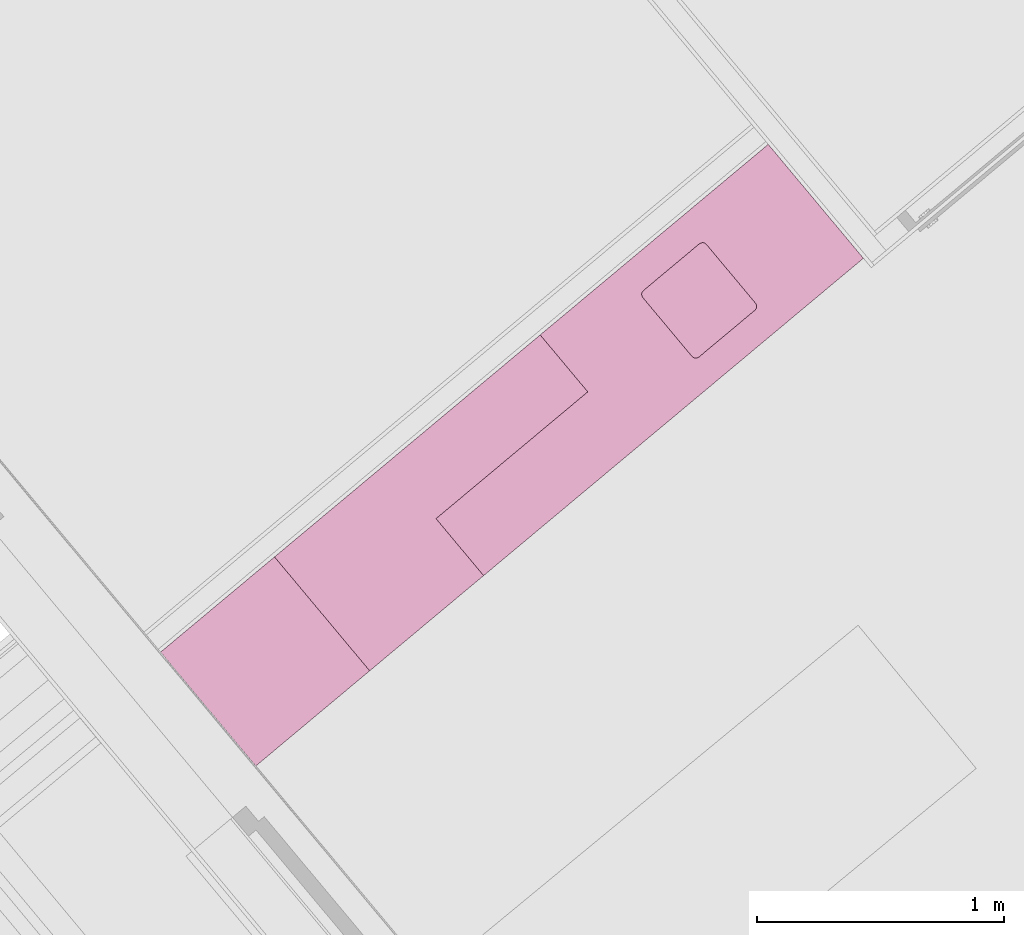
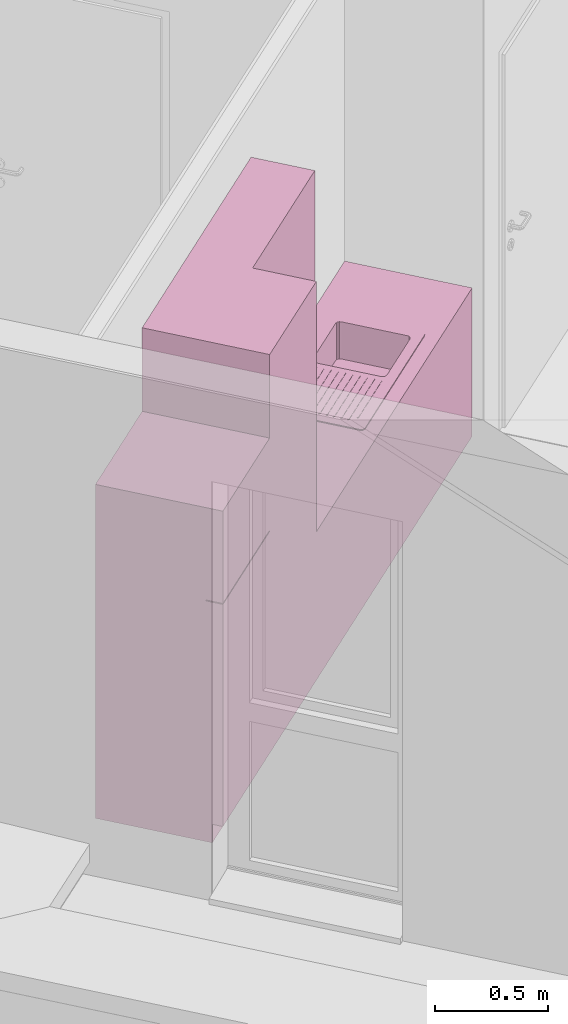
# One storey, part 59 of 61: 1 furniture element.
"""IFC4 building model written with IfcOpenShell, lengths in metres."""

from ifc_helpers import new_model, entity, si_unit, converted_unit, derived_unit, direction, frame, origin_with_axes, place, context, subcontext, project, spatial, polygons, source, transform, mapped, type_object, element, save


model = new_model("IFC4")

# Units and contexts
model_context = context("Model", 3, precision=1e-05, world=origin_with_axes(), true_north=direction((0.0, 1.0)))
body_context = subcontext(model_context, "Body", "Model", "MODEL_VIEW")
ifc_project = project(units=[si_unit("LENGTHUNIT", "METRE"), si_unit("AREAUNIT", "SQUARE_METRE"), si_unit("VOLUMEUNIT", "CUBIC_METRE"), converted_unit("PLANEANGLEUNIT", "DEGREE", entity("IfcPlaneAngleMeasure", 0.0174532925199), si_unit("PLANEANGLEUNIT", "RADIAN"), dimensions=[0, 0, 0, 0, 0, 0, 0]), converted_unit("TIMEUNIT", "Year", entity("IfcTimeMeasure", 31556926.0), si_unit("TIMEUNIT", "SECOND"), dimensions=[0, 0, 1, 0, 0, 0, 0]), si_unit("MASSUNIT", "GRAM", prefix="KILO"), si_unit("THERMODYNAMICTEMPERATUREUNIT", "DEGREE_CELSIUS"), si_unit("LUMINOUSINTENSITYUNIT", "LUMEN"), si_unit("ENERGYUNIT", "JOULE", prefix="MEGA"), derived_unit("THERMALCONDUCTANCEUNIT", [(si_unit("POWERUNIT", "WATT"), 1), (si_unit("LENGTHUNIT", "METRE"), -1), (si_unit("THERMODYNAMICTEMPERATUREUNIT", "KELVIN"), -1)]), derived_unit("SPECIFICHEATCAPACITYUNIT", [(si_unit("ENERGYUNIT", "JOULE"), 1), (si_unit("MASSUNIT", "GRAM", prefix="KILO"), -1), (si_unit("THERMODYNAMICTEMPERATUREUNIT", "KELVIN"), -1)]), derived_unit("MASSDENSITYUNIT", [(si_unit("MASSUNIT", "GRAM", prefix="KILO"), 1), (si_unit("VOLUMEUNIT", "CUBIC_METRE"), -1)])], contexts=[model_context])

# Site, building, storey, space
site_placement = place(None, frame((-0.00153261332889, -0.00661245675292, 0.0), z_axis=(0.0, 0.0, 1.0), x_axis=(1.0, 0.0, 0.0)))
site = spatial("IfcSite", under=ifc_project, at=site_placement, Name="Gelände", CompositionType="ELEMENT")
building_placement = place(site_placement, origin_with_axes())
building = spatial("IfcBuilding", under=site, at=building_placement, Name="Gebäude", CompositionType="ELEMENT")
storey_placement = place(building_placement, frame((0.0, 0.0, 5.7), z_axis=(0.0, 0.0, 1.0), x_axis=(1.0, 0.0, 0.0)))
storey = spatial("IfcBuildingStorey", under=building, at=storey_placement, Name="DG1", CompositionType="ELEMENT", Elevation=5.7)
space_placement = place(storey_placement, frame((-1.20514111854, 10.7241437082, 0.22), z_axis=(0.0, 0.0, 1.0), x_axis=(0.766948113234, 0.641709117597, 0.0)))
space = spatial("IfcSpace", under=storey, at=space_placement, CompositionType="ELEMENT", PredefinedType="NOTDEFINED")

# Furniture
furniture_type = type_object("IfcFurnitureType", Name="Konzeptküche 26", AssemblyPlace="NOTDEFINED", PredefinedType="NOTDEFINED")
shared_shape = source(origin_with_axes(), body_context, "Body", "Tessellation", [
    polygons([(-0.968323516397, 0.0, 0.0), (-0.968323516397, 0.0, 0.1), (-2.96857705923, 0.0, 0.1), (-2.96857705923, 0.0, 0.0), (-0.968323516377, 0.55, 0.0), (-0.968323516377, 0.55, 0.1), (-2.96857705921, 0.550000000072, 0.1), (-2.96857705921, 0.550000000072, 0.0)], [[[1, 2, 3, 4]], [[5, 6, 2, 1]], [[2, 6, 7, 3]], [[4, 3, 7, 8]], [[1, 4, 8, 5]], [[8, 7, 6, 5]]], closed=True),
    polygons([(-0.968323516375, 0.6, 0.85), (-0.968323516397, 0.0, 0.85), (-2.96857705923, 0.0, 0.85), (-2.96857705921, 0.600000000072, 0.85), (-1.79253770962, 0.0550000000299, 0.85), (-1.7925377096, 0.50500000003, 0.85), (-2.5425377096, 0.505000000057, 0.85), (-2.54253770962, 0.0550000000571, 0.85), (-0.968323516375, 0.6, 0.9), (-0.968323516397, 0.0, 0.9), (-2.96857705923, 0.0, 0.9), (-2.96857705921, 0.600000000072, 0.9), (-1.7925377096, 0.50500000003, 0.9), (-1.79253770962, 0.0550000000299, 0.9), (-2.5425377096, 0.505000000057, 0.9), (-2.54253770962, 0.0550000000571, 0.9)], [[[1, 2, 3, 4], [5, 6, 7, 8]], [[2, 1, 9, 10]], [[3, 2, 10, 11]], [[4, 3, 11, 12]], [[1, 4, 12, 9]], [[13, 6, 5, 14]], [[15, 7, 6, 13]], [[16, 8, 7, 15]], [[14, 5, 8, 16]], [[11, 10, 9, 12], [14, 16, 15, 13]]], closed=True),
    polygons([(-0.968323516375, 0.6, 0.1), (-0.968323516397, 0.0, 0.1), (-2.96857705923, 0.0, 0.1), (-2.96857705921, 0.600000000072, 0.1), (-1.79253770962, 0.0550000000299, 0.1), (-1.7925377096, 0.50500000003, 0.1), (-2.5425377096, 0.505000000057, 0.1), (-2.54253770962, 0.0550000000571, 0.1), (-0.968323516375, 0.6, 0.85), (-0.968323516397, 0.0, 0.85), (-2.96857705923, 0.0, 0.85), (-2.96857705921, 0.600000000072, 0.85), (-1.7925377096, 0.50500000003, 0.85), (-1.79253770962, 0.0550000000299, 0.85), (-2.5425377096, 0.505000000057, 0.85), (-2.54253770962, 0.0550000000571, 0.85)], [[[1, 2, 3, 4], [5, 6, 7, 8]], [[2, 1, 9, 10]], [[3, 2, 10, 11]], [[4, 3, 11, 12]], [[1, 4, 12, 9]], [[13, 6, 5, 14]], [[15, 7, 6, 13]], [[16, 8, 7, 15]], [[14, 5, 8, 16]], [[11, 10, 9, 12], [14, 16, 15, 13]]], closed=True),
    polygons([(-0.968323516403, 0.0, 1.5), (-0.968323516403, 0.0, 2.25), (-1.76753770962, 0.0, 2.25), (-1.76753770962, 0.0, 1.5), (-0.968323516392, 0.3, 1.5), (-0.968323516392, 0.3, 2.25), (-1.76753770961, 0.300000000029, 2.25), (-1.76753770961, 0.300000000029, 1.5)], [[[1, 2, 3, 4]], [[5, 6, 2, 1]], [[2, 6, 7, 3]], [[4, 3, 7, 8]], [[1, 4, 8, 5]], [[8, 7, 6, 5]]], closed=True),
    polygons([(-0.368323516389, 0.519999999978, 0.0), (-0.368323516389, 0.519999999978, 0.1), (-0.368323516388, 0.549999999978, 0.1), (-0.368323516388, 0.549999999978, 0.0), (0.231676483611, 0.519999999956, 0.0), (0.231676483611, 0.519999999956, 0.1), (0.231676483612, 0.549999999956, 0.1), (0.231676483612, 0.549999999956, 0.0)], [[[1, 2, 3, 4]], [[5, 6, 2, 1]], [[2, 6, 7, 3]], [[4, 3, 7, 8]], [[1, 4, 8, 5]], [[8, 7, 6, 5]]], closed=True),
    polygons([(-0.368323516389, 0.519999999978, 0.0), (-0.368323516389, 0.519999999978, 1.8), (0.231676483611, 0.519999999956, 1.8), (0.231676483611, 0.519999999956, 0.0), (-0.368323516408, 0.0, 0.0), (-0.368323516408, 0.0, 1.8), (0.231676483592, 0.0, 1.8), (0.231676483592, 0.0, 0.0)], [[[1, 2, 3, 4]], [[5, 6, 2, 1]], [[2, 6, 7, 3]], [[4, 3, 7, 8]], [[1, 4, 8, 5]], [[8, 7, 6, 5]]], closed=True),
    polygons([(-0.368323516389, 0.519899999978, 0.1), (-0.368323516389, 0.519899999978, 1.2975), (-0.368323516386, 0.599999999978, 1.2975), (-0.368323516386, 0.599999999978, 0.1), (0.231676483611, 0.519899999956, 0.1), (0.231676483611, 0.519899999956, 1.2975), (0.231676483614, 0.599999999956, 1.2975), (0.231676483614, 0.599999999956, 0.1)], [[[1, 2, 3, 4]], [[5, 6, 2, 1]], [[2, 6, 7, 3]], [[4, 3, 7, 8]], [[1, 4, 8, 5]], [[8, 7, 6, 5]]], closed=True),
    polygons([(-0.368323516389, 0.519899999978, 1.3025), (-0.368323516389, 0.519899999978, 1.8), (-0.368323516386, 0.599999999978, 1.8), (-0.368323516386, 0.599999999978, 1.3025), (0.231676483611, 0.519899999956, 1.3025), (0.231676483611, 0.519899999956, 1.8), (0.231676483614, 0.599999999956, 1.8), (0.231676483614, 0.599999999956, 1.3025)], [[[1, 2, 3, 4]], [[5, 6, 2, 1]], [[2, 6, 7, 3]], [[4, 3, 7, 8]], [[1, 4, 8, 5]], [[8, 7, 6, 5]]], closed=True),
    polygons([(-2.4975377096, 0.480000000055, 0.705), (-2.4975377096, 0.480000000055, 0.9), (-2.2025377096, 0.480000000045, 0.9), (-2.2025377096, 0.480000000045, 0.705), (-2.50519137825, 0.478477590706, 0.705), (-2.50519137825, 0.478477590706, 0.9), (-2.19488404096, 0.478477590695, 0.9), (-2.19488404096, 0.478477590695, 0.705), (-2.18839557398, 0.474142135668, 0.705), (-2.18406011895, 0.467653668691, 0.705), (-2.18253770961, 0.460000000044, 0.705), (-2.18253770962, 0.150000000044, 0.705), (-2.18406011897, 0.142346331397, 0.705), (-2.18839557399, 0.13585786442, 0.705), (-2.19488404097, 0.131522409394, 0.705), (-2.20253770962, 0.130000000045, 0.705), (-2.49753770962, 0.130000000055, 0.705), (-2.50519137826, 0.131522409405, 0.705), (-2.51167984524, 0.135857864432, 0.705), (-2.51601530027, 0.142346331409, 0.705), (-2.51753770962, 0.150000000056, 0.705), (-2.51753770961, 0.460000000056, 0.705), (-2.51601530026, 0.467653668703, 0.705), (-2.51167984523, 0.47414213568, 0.705), (-2.51167984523, 0.47414213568, 0.9), (-2.18839557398, 0.474142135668, 0.9), (-2.18406011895, 0.467653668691, 0.9), (-2.18253770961, 0.460000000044, 0.9), (-2.18253770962, 0.150000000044, 0.9), (-2.18406011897, 0.142346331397, 0.9), (-2.18839557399, 0.13585786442, 0.9), (-2.19488404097, 0.131522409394, 0.9), (-2.20253770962, 0.130000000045, 0.9), (-2.49753770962, 0.130000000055, 0.9), (-2.50519137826, 0.131522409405, 0.9), (-2.51167984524, 0.135857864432, 0.9), (-2.51601530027, 0.142346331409, 0.9), (-2.51753770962, 0.150000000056, 0.9), (-2.51753770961, 0.460000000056, 0.9), (-2.51601530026, 0.467653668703, 0.9)], [[[1, 2, 3, 4]], [[5, 6, 2, 1]], [[4, 3, 7, 8]], [[1, 4, 8, 9, 10, 11, 12, 13, 14, 15, 16, 17, 18, 19, 20, 21, 22, 23, 24, 5]], [[24, 25, 6, 5]], [[8, 7, 26, 9]], [[9, 26, 27, 10]], [[10, 27, 28, 11]], [[11, 28, 29, 12]], [[12, 29, 30, 13]], [[13, 30, 31, 14]], [[14, 31, 32, 15]], [[15, 32, 33, 16]], [[16, 33, 34, 17]], [[17, 34, 35, 18]], [[18, 35, 36, 19]], [[19, 36, 37, 20]], [[20, 37, 38, 21]], [[21, 38, 39, 22]], [[22, 39, 40, 23]], [[23, 40, 25, 24]]], closed=False),
    polygons([(-2.5475377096, 0.530000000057, 0.9), (-2.5475377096, 0.530000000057, 0.905), (-1.7875377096, 0.53000000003, 0.905), (-1.7875377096, 0.53000000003, 0.9), (-2.55519137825, 0.528477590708, 0.9), (-2.55519137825, 0.528477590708, 0.905), (-2.56167984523, 0.524142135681, 0.905), (-2.56601530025, 0.517653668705, 0.905), (-2.5675377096, 0.510000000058, 0.905), (-2.56753770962, 0.050000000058, 0.905), (-2.56601530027, 0.0423463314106, 0.905), (-2.56167984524, 0.035857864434, 0.905), (-2.55519137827, 0.0315224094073, 0.905), (-2.54753770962, 0.0300000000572, 0.905), (-1.78753770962, 0.0300000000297, 0.905), (-1.77988404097, 0.0315224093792, 0.905), (-1.773395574, 0.0358578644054, 0.905), (-1.76906011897, 0.0423463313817, 0.905), (-1.76753770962, 0.050000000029, 0.905), (-1.7675377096, 0.510000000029, 0.905), (-1.76906011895, 0.517653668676, 0.905), (-1.77339557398, 0.524142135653, 0.905), (-1.77988404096, 0.52847759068, 0.905), (-2.4975377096, 0.480000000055, 0.905), (-2.2025377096, 0.480000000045, 0.905), (-2.19488404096, 0.478477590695, 0.905), (-2.18839557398, 0.474142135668, 0.905), (-2.18406011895, 0.467653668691, 0.905), (-2.18253770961, 0.460000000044, 0.905), (-2.18253770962, 0.150000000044, 0.905), (-2.18406011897, 0.142346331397, 0.905), (-2.18839557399, 0.13585786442, 0.905), (-2.19488404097, 0.131522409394, 0.905), (-2.20253770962, 0.130000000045, 0.905), (-2.49753770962, 0.130000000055, 0.905), (-2.50519137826, 0.131522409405, 0.905), (-2.51167984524, 0.135857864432, 0.905), (-2.51601530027, 0.142346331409, 0.905), (-2.51753770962, 0.150000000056, 0.905), (-2.51753770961, 0.460000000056, 0.905), (-2.51601530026, 0.467653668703, 0.905), (-2.51167984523, 0.47414213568, 0.905), (-2.50519137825, 0.478477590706, 0.905), (-1.77988404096, 0.52847759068, 0.9), (-1.77339557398, 0.524142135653, 0.9), (-1.76906011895, 0.517653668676, 0.9), (-1.7675377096, 0.510000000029, 0.9), (-1.76753770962, 0.050000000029, 0.9), (-1.76906011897, 0.0423463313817, 0.9), (-1.773395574, 0.0358578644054, 0.9), (-1.77988404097, 0.0315224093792, 0.9), (-1.78753770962, 0.0300000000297, 0.9), (-2.54753770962, 0.0300000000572, 0.9), (-2.55519137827, 0.0315224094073, 0.9), (-2.56167984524, 0.035857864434, 0.9), (-2.56601530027, 0.0423463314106, 0.9), (-2.56753770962, 0.050000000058, 0.9), (-2.5675377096, 0.510000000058, 0.9), (-2.56601530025, 0.517653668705, 0.9), (-2.56167984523, 0.524142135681, 0.9), (-2.4975377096, 0.480000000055, 0.9), (-2.50519137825, 0.478477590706, 0.9), (-2.51167984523, 0.47414213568, 0.9), (-2.51601530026, 0.467653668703, 0.9), (-2.51753770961, 0.460000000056, 0.9), (-2.51753770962, 0.150000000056, 0.9), (-2.51601530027, 0.142346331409, 0.9), (-2.51167984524, 0.135857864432, 0.9), (-2.50519137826, 0.131522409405, 0.9), (-2.49753770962, 0.130000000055, 0.9), (-2.20253770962, 0.130000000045, 0.9), (-2.19488404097, 0.131522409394, 0.9), (-2.18839557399, 0.13585786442, 0.9), (-2.18406011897, 0.142346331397, 0.9), (-2.18253770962, 0.150000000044, 0.9), (-2.18253770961, 0.460000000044, 0.9), (-2.18406011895, 0.467653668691, 0.9), (-2.18839557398, 0.474142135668, 0.9), (-2.19488404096, 0.478477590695, 0.9), (-2.2025377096, 0.480000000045, 0.9)], [[[1, 2, 3, 4]], [[5, 6, 2, 1]], [[2, 6, 7, 8, 9, 10, 11, 12, 13, 14, 15, 16, 17, 18, 19, 20, 21, 22, 23, 3], [24, 25, 26, 27, 28, 29, 30, 31, 32, 33, 34, 35, 36, 37, 38, 39, 40, 41, 42, 43]], [[4, 3, 23, 44]], [[1, 4, 44, 45, 46, 47, 48, 49, 50, 51, 52, 53, 54, 55, 56, 57, 58, 59, 60, 5], [61, 62, 63, 64, 65, 66, 67, 68, 69, 70, 71, 72, 73, 74, 75, 76, 77, 78, 79, 80]], [[60, 7, 6, 5]], [[59, 8, 7, 60]], [[58, 9, 8, 59]], [[57, 10, 9, 58]], [[56, 11, 10, 57]], [[55, 12, 11, 56]], [[54, 13, 12, 55]], [[53, 14, 13, 54]], [[52, 15, 14, 53]], [[51, 16, 15, 52]], [[50, 17, 16, 51]], [[49, 18, 17, 50]], [[48, 19, 18, 49]], [[47, 20, 19, 48]], [[46, 21, 20, 47]], [[45, 22, 21, 46]], [[44, 23, 22, 45]], [[80, 25, 24, 61]], [[79, 26, 25, 80]], [[78, 27, 26, 79]], [[77, 28, 27, 78]], [[76, 29, 28, 77]], [[75, 30, 29, 76]], [[74, 31, 30, 75]], [[73, 32, 31, 74]], [[72, 33, 32, 73]], [[71, 34, 33, 72]], [[70, 35, 34, 71]], [[69, 36, 35, 70]], [[68, 37, 36, 69]], [[67, 38, 37, 68]], [[66, 39, 38, 67]], [[65, 40, 39, 66]], [[64, 41, 40, 65]], [[63, 42, 41, 64]], [[62, 43, 42, 63]], [[61, 24, 43, 62]]], closed=True),
    polygons([(-2.1525377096, 0.475000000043, 0.905), (-2.1525377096, 0.475000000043, 0.907), (-1.8475377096, 0.475000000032, 0.907), (-1.8475377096, 0.475000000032, 0.905), (-2.1525377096, 0.470000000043, 0.905), (-2.1525377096, 0.470000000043, 0.907), (-1.8475377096, 0.470000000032, 0.907), (-1.8475377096, 0.470000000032, 0.905)], [[[1, 2, 3, 4]], [[5, 6, 2, 1]], [[2, 6, 7, 3]], [[4, 3, 7, 8]], [[1, 4, 8, 5]], [[8, 7, 6, 5]]], closed=True),
    polygons([(-2.15253770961, 0.441000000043, 0.905), (-2.15253770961, 0.441000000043, 0.907), (-1.81753770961, 0.441000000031, 0.907), (-1.81753770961, 0.441000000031, 0.905), (-2.15253770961, 0.436000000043, 0.905), (-2.15253770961, 0.436000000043, 0.907), (-1.81753770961, 0.436000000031, 0.907), (-1.81753770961, 0.436000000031, 0.905)], [[[1, 2, 3, 4]], [[5, 6, 2, 1]], [[2, 6, 7, 3]], [[4, 3, 7, 8]], [[1, 4, 8, 5]], [[8, 7, 6, 5]]], closed=True),
    polygons([(-2.15253770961, 0.407000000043, 0.905), (-2.15253770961, 0.407000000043, 0.907), (-1.81753770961, 0.407000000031, 0.907), (-1.81753770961, 0.407000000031, 0.905), (-2.15253770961, 0.402000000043, 0.905), (-2.15253770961, 0.402000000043, 0.907), (-1.81753770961, 0.402000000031, 0.907), (-1.81753770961, 0.402000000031, 0.905)], [[[1, 2, 3, 4]], [[5, 6, 2, 1]], [[2, 6, 7, 3]], [[4, 3, 7, 8]], [[1, 4, 8, 5]], [[8, 7, 6, 5]]], closed=True),
    polygons([(-2.15253770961, 0.373000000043, 0.905), (-2.15253770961, 0.373000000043, 0.907), (-1.81753770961, 0.373000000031, 0.907), (-1.81753770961, 0.373000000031, 0.905), (-2.15253770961, 0.368000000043, 0.905), (-2.15253770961, 0.368000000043, 0.907), (-1.81753770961, 0.368000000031, 0.907), (-1.81753770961, 0.368000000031, 0.905)], [[[1, 2, 3, 4]], [[5, 6, 2, 1]], [[2, 6, 7, 3]], [[4, 3, 7, 8]], [[1, 4, 8, 5]], [[8, 7, 6, 5]]], closed=True),
    polygons([(-2.15253770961, 0.339000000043, 0.905), (-2.15253770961, 0.339000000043, 0.907), (-1.81753770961, 0.339000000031, 0.907), (-1.81753770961, 0.339000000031, 0.905), (-2.15253770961, 0.334000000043, 0.905), (-2.15253770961, 0.334000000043, 0.907), (-1.81753770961, 0.334000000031, 0.907), (-1.81753770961, 0.334000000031, 0.905)], [[[1, 2, 3, 4]], [[5, 6, 2, 1]], [[2, 6, 7, 3]], [[4, 3, 7, 8]], [[1, 4, 8, 5]], [[8, 7, 6, 5]]], closed=True),
    polygons([(-2.15253770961, 0.305000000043, 0.905), (-2.15253770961, 0.305000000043, 0.907), (-1.81753770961, 0.305000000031, 0.907), (-1.81753770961, 0.305000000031, 0.905), (-2.15253770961, 0.300000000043, 0.905), (-2.15253770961, 0.300000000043, 0.907), (-1.81753770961, 0.300000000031, 0.907), (-1.81753770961, 0.300000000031, 0.905)], [[[1, 2, 3, 4]], [[5, 6, 2, 1]], [[2, 6, 7, 3]], [[4, 3, 7, 8]], [[1, 4, 8, 5]], [[8, 7, 6, 5]]], closed=True),
    polygons([(-2.15253770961, 0.271000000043, 0.905), (-2.15253770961, 0.271000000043, 0.907), (-1.81753770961, 0.271000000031, 0.907), (-1.81753770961, 0.271000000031, 0.905), (-2.15253770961, 0.266000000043, 0.905), (-2.15253770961, 0.266000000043, 0.907), (-1.81753770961, 0.266000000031, 0.907), (-1.81753770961, 0.266000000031, 0.905)], [[[1, 2, 3, 4]], [[5, 6, 2, 1]], [[2, 6, 7, 3]], [[4, 3, 7, 8]], [[1, 4, 8, 5]], [[8, 7, 6, 5]]], closed=True),
    polygons([(-2.15253770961, 0.237000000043, 0.905), (-2.15253770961, 0.237000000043, 0.907), (-1.81753770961, 0.237000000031, 0.907), (-1.81753770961, 0.237000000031, 0.905), (-2.15253770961, 0.232000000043, 0.905), (-2.15253770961, 0.232000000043, 0.907), (-1.81753770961, 0.232000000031, 0.907), (-1.81753770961, 0.232000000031, 0.905)], [[[1, 2, 3, 4]], [[5, 6, 2, 1]], [[2, 6, 7, 3]], [[4, 3, 7, 8]], [[1, 4, 8, 5]], [[8, 7, 6, 5]]], closed=True),
    polygons([(-2.15253770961, 0.203000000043, 0.905), (-2.15253770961, 0.203000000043, 0.907), (-1.81753770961, 0.203000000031, 0.907), (-1.81753770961, 0.203000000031, 0.905), (-2.15253770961, 0.198000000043, 0.905), (-2.15253770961, 0.198000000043, 0.907), (-1.81753770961, 0.198000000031, 0.907), (-1.81753770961, 0.198000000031, 0.905)], [[[1, 2, 3, 4]], [[5, 6, 2, 1]], [[2, 6, 7, 3]], [[4, 3, 7, 8]], [[1, 4, 8, 5]], [[8, 7, 6, 5]]], closed=True),
    polygons([(-2.15253770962, 0.169000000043, 0.905), (-2.15253770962, 0.169000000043, 0.907), (-1.81753770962, 0.169000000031, 0.907), (-1.81753770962, 0.169000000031, 0.905), (-2.15253770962, 0.164000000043, 0.905), (-2.15253770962, 0.164000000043, 0.907), (-1.81753770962, 0.164000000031, 0.907), (-1.81753770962, 0.164000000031, 0.905)], [[[1, 2, 3, 4]], [[5, 6, 2, 1]], [[2, 6, 7, 3]], [[4, 3, 7, 8]], [[1, 4, 8, 5]], [[8, 7, 6, 5]]], closed=True),
    polygons([(-2.15253770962, 0.135000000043, 0.905), (-2.15253770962, 0.135000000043, 0.907), (-1.84753770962, 0.135000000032, 0.907), (-1.84753770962, 0.135000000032, 0.905), (-2.15253770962, 0.130000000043, 0.905), (-2.15253770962, 0.130000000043, 0.907), (-1.84753770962, 0.130000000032, 0.907), (-1.84753770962, 0.130000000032, 0.905)], [[[1, 2, 3, 4]], [[5, 6, 2, 1]], [[2, 6, 7, 3]], [[4, 3, 7, 8]], [[1, 4, 8, 5]], [[8, 7, 6, 5]]], closed=True),
    polygons([(-0.968323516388, 0.55, 0.0), (-0.968323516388, 0.55, 0.1), (-0.368323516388, 0.549999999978, 0.1), (-0.368323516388, 0.549999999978, 0.0), (-0.968323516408, 0.0, 0.0), (-0.968323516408, 0.0, 0.1), (-0.368323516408, 0.0, 0.1), (-0.368323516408, 0.0, 0.0)], [[[1, 2, 3, 4]], [[5, 6, 2, 1]], [[2, 6, 7, 3]], [[4, 3, 7, 8]], [[1, 4, 8, 5]], [[8, 7, 6, 5]]], closed=True),
    polygons([(-0.968323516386, 0.6, 0.1), (-0.968323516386, 0.6, 2.25), (-0.368323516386, 0.599999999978, 2.25), (-0.368323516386, 0.599999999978, 0.1), (-0.968323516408, 0.0, 0.1), (-0.968323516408, 0.0, 2.25), (-0.368323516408, 0.0, 2.25), (-0.368323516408, 0.0, 0.1)], [[[1, 2, 3, 4]], [[5, 6, 2, 1]], [[2, 6, 7, 3]], [[4, 3, 7, 8]], [[1, 4, 8, 5]], [[8, 7, 6, 5]]], closed=True),
])
furniture_placement = place(space_placement, frame((0.235417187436, 5.74396755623, 0.0), z_axis=(0.0, 0.0, 1.0), x_axis=(-0.999999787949, 0.00065123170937, 0.0)))
element("IfcFurniture", 1, at=furniture_placement, inside=space, type_object=furniture_type, Name="Objekt-0002", PredefinedType="NOTDEFINED", context=body_context, shape_type="MappedRepresentation", body=[
    mapped(shared_shape, transform((0.0, 0.0, 0.0))),
])

save(model, "model.ifc")
